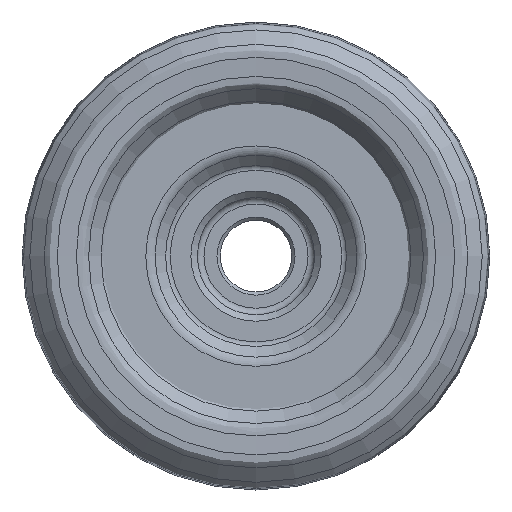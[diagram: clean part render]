
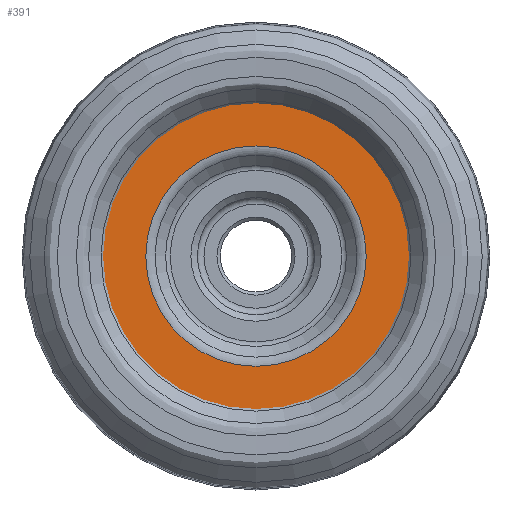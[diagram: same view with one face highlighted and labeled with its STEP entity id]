
A CAD part, left-side view. The second image highlights one B-rep face of the part: STEP entity #391.
In plain terms, the highlighted planar face has unit normal (-1, 0, 0).
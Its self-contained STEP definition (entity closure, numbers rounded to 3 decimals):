
#391=ADVANCED_FACE('',(#491,#492),#457,.T.);
#457=PLANE('',#1256);
#491=FACE_BOUND('',#597,.T.);
#492=FACE_BOUND('',#598,.T.);
#597=EDGE_LOOP('',(#750));
#598=EDGE_LOOP('',(#751));
#750=ORIENTED_EDGE('',*,*,#1076,.T.);
#751=ORIENTED_EDGE('',*,*,#1077,.T.);
#978=VERTEX_POINT('',#1833);
#979=VERTEX_POINT('',#1835);
#1076=EDGE_CURVE('',#978,#978,#1174,.T.);
#1077=EDGE_CURVE('',#979,#979,#1175,.T.);
#1174=CIRCLE('',#1254,25.635);
#1175=CIRCLE('',#1255,16.927);
#1254=AXIS2_PLACEMENT_3D('',#1832,#1432,#1433);
#1255=AXIS2_PLACEMENT_3D('',#1834,#1434,#1435);
#1256=AXIS2_PLACEMENT_3D('',#1836,#1436,#1437);
#1432=DIRECTION('',(-1.,0.,0.));
#1433=DIRECTION('',(0.,0.,1.));
#1434=DIRECTION('',(1.,0.,0.));
#1435=DIRECTION('',(0.,0.,1.));
#1436=DIRECTION('',(-1.,0.,0.));
#1437=DIRECTION('',(0.,0.,-1.));
#1832=CARTESIAN_POINT('',(3.494,0.,0.));
#1833=CARTESIAN_POINT('',(3.494,0.,25.635));
#1834=CARTESIAN_POINT('',(3.494,0.,0.));
#1835=CARTESIAN_POINT('',(3.494,0.,16.927));
#1836=CARTESIAN_POINT('',(3.494,-26.099,0.));
